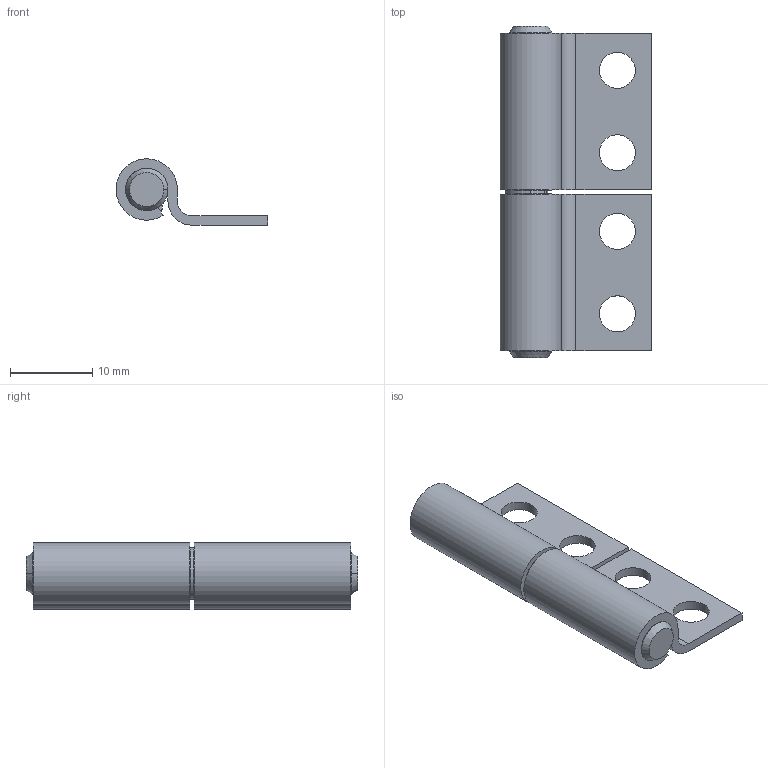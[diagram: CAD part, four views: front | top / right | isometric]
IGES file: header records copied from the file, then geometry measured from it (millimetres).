
Start section: 3D InterOp IGES (v. 2022 1.0.0), Spatial Corp. Copyright (c) 1999-2020.
Global section: file name: SB-200-SB-113-TORQMASTER-HINGE-ASSEMBLY.igs; native system: Spatial Corp.; preprocessor: 3D InterOp GENERIC/IGES 3.0; author: Noname; organization: Noname; date: 20250627.094057; units: inch
Bounding box: 18.4 x 40.18 x 8.05 mm (x, y, z)
Volume: 2109.3 mm3; surface area: 3247.4 mm2
Topology: 4 solids, 4 shells, 64 faces, 158 edges, 104 vertices
Faces by surface type: cylinder 32, extrusion 28, cone 4
